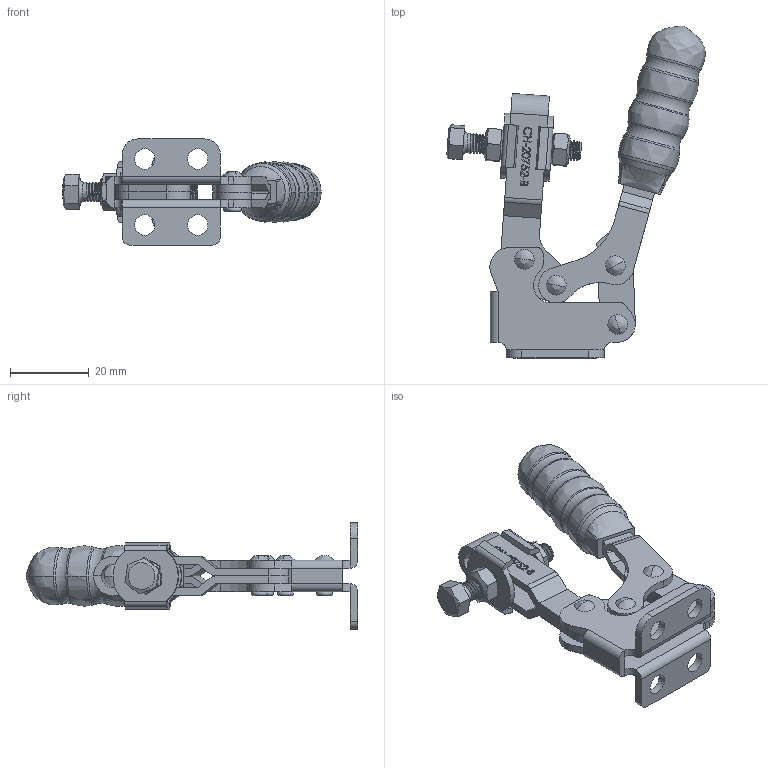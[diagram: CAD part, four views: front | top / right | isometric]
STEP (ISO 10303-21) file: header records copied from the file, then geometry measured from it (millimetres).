
FILE_DESCRIPTION(/* description */ ('STEP AP203'),/* implementation_level */ '2;1');
FILE_NAME(/* name */ 'E:\STRONA\Horizontal toggle clamp\CH-20752-B\CH-20752-B_OTWARTY.stp',/* time_stamp */ '2019-01-15T16:19:23+01:00',/* author */ ('Admin'),/* organization */ ('·L?¤¤?'),/* preprocessor_version */ 'ST-DEVELOPER v17.2',/* originating_system */ 'Autodesk Inventor 2019',/* authorisation */ '');
FILE_SCHEMA (('AUTOMOTIVE_DESIGN { 1 0 10303 214 3 1 1 }'));
Products named in the file (10): CH-20752-B_OTWARTY; 20752-B-03___; FW140___; 20752-B-05___; _____; 053008___; 20752-B___; M5___; 20752-B-04___; 20752-B-02___
Assembly tree (15 placements, depth 2):
  CH-20752-B_OTWARTY
    20752-B-03___
    M5___  x2
    20752-B-05___  x4
    FW140___  x2
    20752-B-04___  x2
    _____
    053008___
    20752-B___
    20752-B-02___
Bounding box: 65.79 x 84.51 x 27 mm (x, y, z)
Volume: 16177.1 mm3; surface area: 17610.2 mm2
Topology: 17 solids, 17 shells, 679 faces, 1906 edges, 1277 vertices
Faces by surface type: plane 297, bspline 209, cylinder 142, torus 19, cone 12
Full cylindrical faces by diameter (mm): 1.033 x1, 1.199 x1, 2.4 x4, 3 x20, 4.2 x8, 5 x34, 5.2 x4, 6.8 x2
Entity records: 45662 total; most frequent: CARTESIAN_POINT 30743, ORIENTED_EDGE 3418, DIRECTION 2362, EDGE_CURVE 1709, VERTEX_POINT 1151, LINE 930, VECTOR 930, AXIS2_PLACEMENT_3D 716
